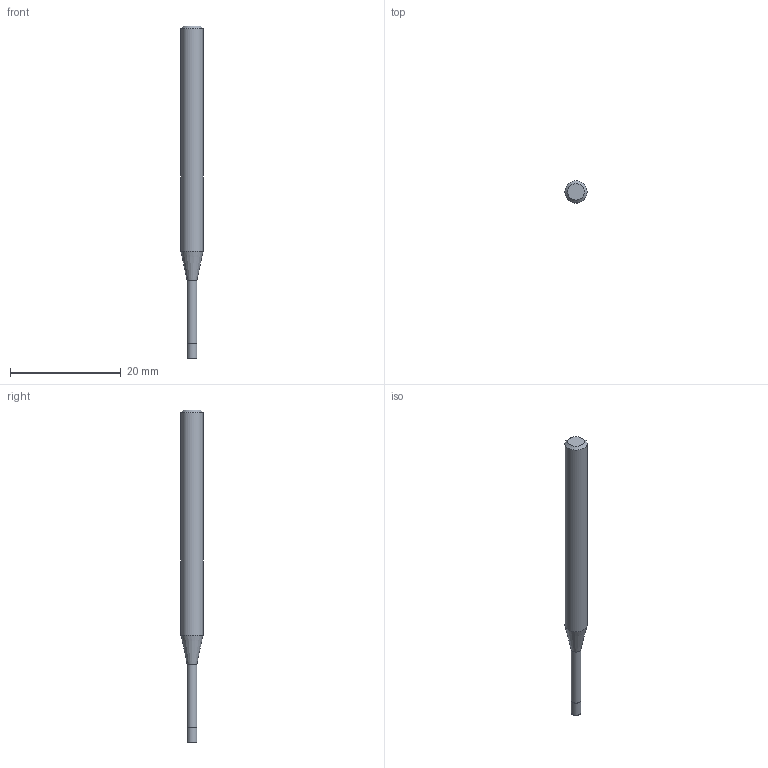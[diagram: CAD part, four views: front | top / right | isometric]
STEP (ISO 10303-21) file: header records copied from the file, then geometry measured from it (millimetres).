
FILE_DESCRIPTION((''),'2;1');
FILE_NAME('C:\Users\nsx150\AppData\Local\Temp\Mastercam 2021\17T8Q8S9EB\TEMP.step','2021-04-21T16:15:24',(''),(''),'STEP Write','Mastercam 2021 ... CNC Software, Inc.','');
FILE_SCHEMA(('AUTOMOTIVE_DESIGN'));
Length unit declared in the file: millimetre
Products named in the file (1): None
Bounding box: 4 x 4 x 60 mm (x, y, z)
Volume: 579.7 mm3; surface area: 653.3 mm2
Topology: 2 solids, 2 shells, 9 faces, 12 edges, 7 vertices
Faces by surface type: plane 4, cylinder 3, cone 2
Full cylindrical faces by diameter (mm): 1.74 x1, 1.8 x1, 4 x1
Entity records: 211 total; most frequent: DIRECTION 36, CARTESIAN_POINT 25, AXIS2_PLACEMENT_3D 18, ORIENTED_EDGE 14, EDGE_LOOP 14, STYLED_ITEM 12, ADVANCED_FACE 9, FACE_BOUND 8
